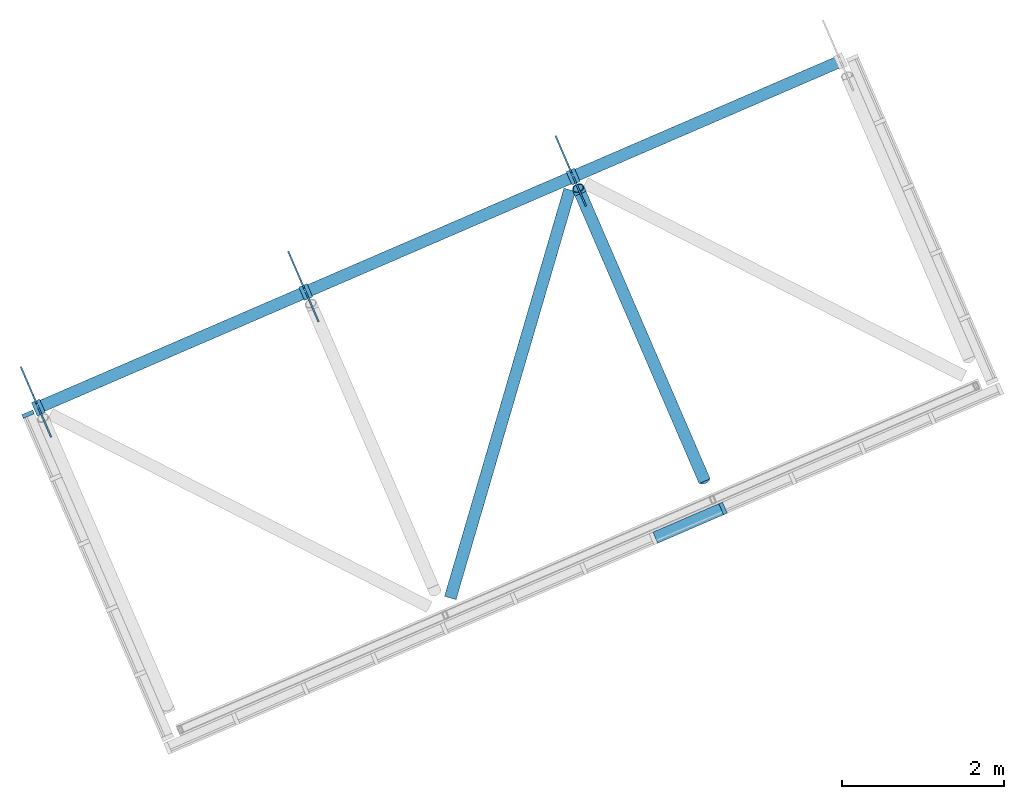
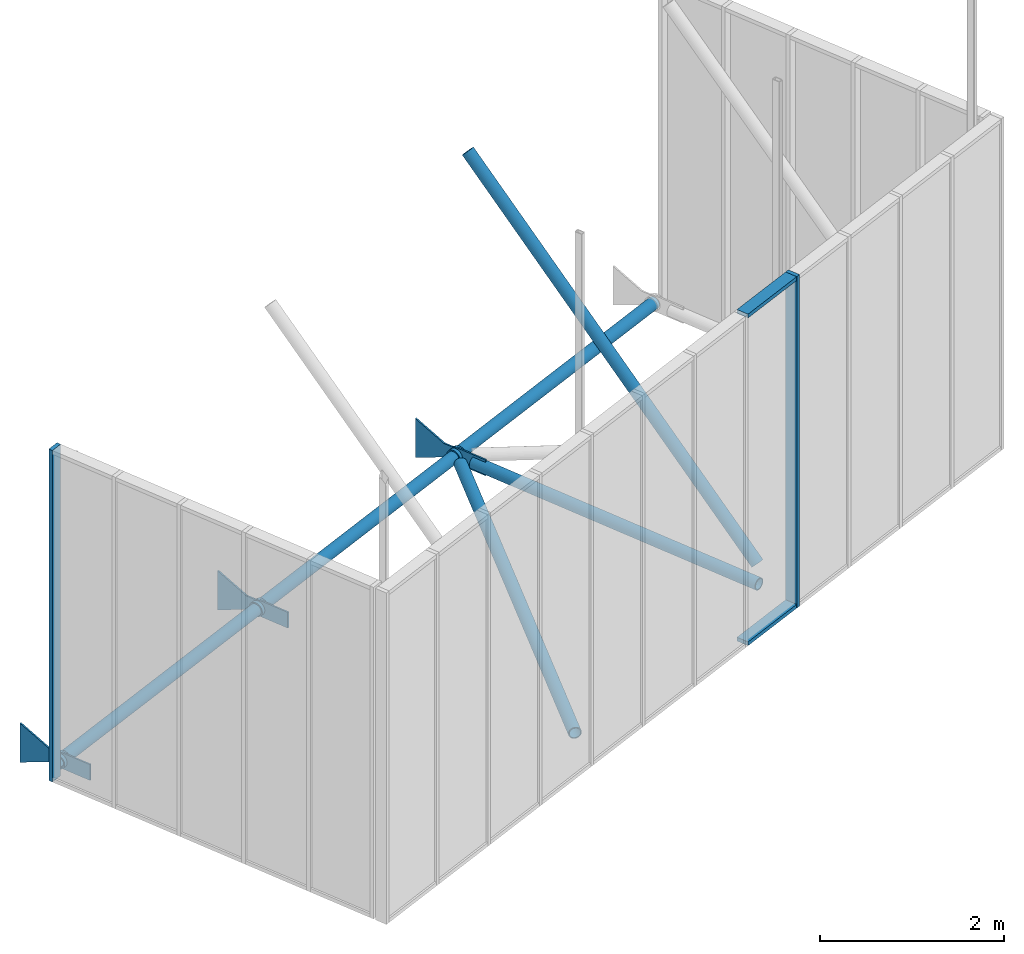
# One storey, part 2 of 5: 8 members, 3 beams, 2 elements without a shape of their own.
"""IFC4 building model written with IfcOpenShell, lengths in metres."""

import ifcopenshell
import ifcopenshell.guid

model = None  # the IFC model being written
_history = None  # IfcOwnerHistory: only IFC2X3 demands one
_inside = {}  # id of a spatial element -> (the spatial element, [elements in it])
_under = {}  # id of a project, library or spatial element -> (it, [spatial elements below it])
_declared = {}  # id of a project -> (the project, [libraries it declares])
_typed = {}  # id of a type object -> (the type object, [elements of that type])
_made_of = {}  # id of a material, layer set ... -> (it, [elements and type objects made of it])


def new_model(schema):
    """Start an empty IFC model of exactly this schema.

    Asked for "IFC4X3", IfcOpenShell would pick the latest addendum, in which some entities
    have other attributes; the version numbers below select the first issue.
    IFC2X3 requires an IfcOwnerHistory on every rooted entity: one is made here for all.
    """
    global model, _history
    if schema == "IFC4X3":
        model = ifcopenshell.file(schema_version=(4, 3, 0, 0))
    else:
        model = ifcopenshell.file(schema=schema)
    _inside.clear()
    _under.clear()
    _declared.clear()
    _typed.clear()
    _made_of.clear()
    _history = None
    if model.schema == "IFC2X3":
        org = make("IfcOrganization", Name="unknown")
        user = make(
            "IfcPersonAndOrganization",
            ThePerson=make("IfcPerson", FamilyName="unknown"),
            TheOrganization=org,
        )
        app = make(
            "IfcApplication",
            ApplicationDeveloper=org,
            Version="unknown",
            ApplicationFullName="unknown",
            ApplicationIdentifier="unknown",
        )
        _history = make(
            "IfcOwnerHistory",
            OwningUser=user,
            OwningApplication=app,
            ChangeAction="ADDED",
            CreationDate=0,
        )
    return model


def make(cls, **values):
    """One entity of the class cls with the attributes given. An attribute that is None is left unset."""
    return model.create_entity(
        cls, **{name: value for name, value in values.items() if value is not None}
    )


def entity(cls, *values):
    """Any entity or typed value of the class cls, its attributes in the order of the schema. None: left unset."""
    e = model.create_entity(cls)
    for i, value in enumerate(values):
        if value is not None:
            e[i] = value
    return e


def rooted(cls, **values):
    """An entity with a GlobalId (a new one), such as an element, a storey or a relation."""
    return make(cls, GlobalId=ifcopenshell.guid.new(), OwnerHistory=_history, **values)


def si_unit(unit_type, name, prefix=None):
    """IfcSIUnit, for example si_unit("LENGTHUNIT", "METRE", prefix="MILLI")."""
    return make("IfcSIUnit", UnitType=unit_type, Prefix=prefix, Name=name)


def converted_unit(unit_type, name, factor, base, dimensions=None, offset=None):
    """IfcConversionBasedUnit, such as the inch: factor (a typed value) times the base unit."""
    return make(
        "IfcConversionBasedUnit"
        if offset is None
        else "IfcConversionBasedUnitWithOffset",
        ConversionOffset=offset,
        Dimensions=None
        if dimensions is None
        else entity("IfcDimensionalExponents", *dimensions),
        UnitType=unit_type,
        Name=name,
        ConversionFactor=make(
            "IfcMeasureWithUnit", ValueComponent=factor, UnitComponent=base
        ),
    )


def derived_unit(unit_type, elements):
    """IfcDerivedUnit: a product of units, each with its exponent."""
    return make(
        "IfcDerivedUnit",
        Elements=[
            make("IfcDerivedUnitElement", Unit=unit, Exponent=power)
            for unit, power in elements
        ],
        UnitType=unit_type,
    )


def assignment(units):
    """IfcUnitAssignment: the units of a project."""
    return None if units is None else make("IfcUnitAssignment", Units=units)


def point(xyz):
    """IfcCartesianPoint."""
    return None if xyz is None else make("IfcCartesianPoint", Coordinates=xyz)


def direction(xyz):
    """IfcDirection."""
    return None if xyz is None else make("IfcDirection", DirectionRatios=xyz)


def frame(location, z_axis=None, x_axis=None):
    """IfcAxis2Placement3D, a coordinate frame: its origin and axes. An axis left out is left unset."""
    return make(
        "IfcAxis2Placement3D",
        Location=point(location),
        Axis=direction(z_axis),
        RefDirection=direction(x_axis),
    )


def origin():
    """The frame at (0, 0, 0) with its axes left unset."""
    return frame((0.0, 0.0, 0.0))


def place(relative_to, where):
    """IfcLocalPlacement: puts the frame where relative to a parent placement (None: the world)."""
    return make(
        "IfcLocalPlacement", PlacementRelTo=relative_to, RelativePlacement=where
    )


def context(
    kind, dimensions, precision=None, world=None, true_north=None, identifier=None
):
    """IfcGeometricRepresentationContext, for example the 3D "Model" context."""
    return make(
        "IfcGeometricRepresentationContext",
        ContextIdentifier=identifier,
        ContextType=kind,
        CoordinateSpaceDimension=dimensions,
        Precision=precision,
        WorldCoordinateSystem=world,
        TrueNorth=true_north,
    )


def subcontext(parent, identifier, kind, view, scale=None):
    """IfcGeometricRepresentationSubContext, for example "Body" below "Model"."""
    return make(
        "IfcGeometricRepresentationSubContext",
        ContextIdentifier=identifier,
        ContextType=kind,
        ParentContext=parent,
        TargetScale=scale,
        TargetView=view,
    )


def project(units=None, contexts=None):
    """IfcProject with its units and contexts."""
    return rooted(
        "IfcProject",
        Name="project",
        RepresentationContexts=contexts,
        UnitsInContext=assignment(units),
    )


def spatial(cls, under=None, at=None, **own):
    """A site, building, storey or space (cls), placed at a placement, below another one or the project."""
    s = rooted(cls, ObjectPlacement=at, **own)
    if under is not None:
        _under.setdefault(under.id(), (under, []))[1].append(s)
    return s


def point_list(points):
    """IfcCartesianPointList2D or 3D."""
    cls = (
        "IfcCartesianPointList2D" if len(points[0]) == 2 else "IfcCartesianPointList3D"
    )
    return make(cls, CoordList=points)


def arc(*indices):
    """IfcArcIndex: an arc through three numbered points of an indexed curve."""
    return model.create_entity("IfcArcIndex", indices)


def indexed_curve(points, segments=None, self_intersect=None):
    """IfcIndexedPolyCurve: lines and arcs through numbered points (the first is 1)."""
    return make(
        "IfcIndexedPolyCurve",
        Points=point_list(points),
        Segments=segments,
        SelfIntersect=self_intersect,
    )


def outline(outer, holes=None, kind="AREA"):
    """IfcArbitraryClosedProfileDef: a profile drawn as a closed curve; with holes, ...WithVoids."""
    if holes is None:
        return make("IfcArbitraryClosedProfileDef", ProfileType=kind, OuterCurve=outer)
    return make(
        "IfcArbitraryProfileDefWithVoids",
        ProfileType=kind,
        OuterCurve=outer,
        InnerCurves=holes,
    )


def extrude(swept, where, along, depth):
    """IfcExtrudedAreaSolid: the profile swept, set in the frame where, extruded along a direction by depth."""
    return make(
        "IfcExtrudedAreaSolid",
        SweptArea=swept,
        Position=where,
        ExtrudedDirection=direction(along),
        Depth=depth,
    )


def polygons(points, faces, closed=None, point_numbers=None):
    """IfcPolygonalFaceSet: a face is its outer loop, then its inner loops; points numbered from 1."""
    made = []
    for loops in faces:
        if len(loops) == 1:
            made.append(make("IfcIndexedPolygonalFace", CoordIndex=loops[0]))
        else:
            made.append(
                make(
                    "IfcIndexedPolygonalFaceWithVoids",
                    CoordIndex=loops[0],
                    InnerCoordIndices=loops[1:],
                )
            )
    return make(
        "IfcPolygonalFaceSet",
        Coordinates=point_list(points),
        Closed=closed,
        Faces=made,
        PnIndex=point_numbers,
    )


def shape(context_of_items, identifier, shape_type, items):
    """IfcShapeRepresentation: the items that make up one representation, for example the "Body"."""
    return make(
        "IfcShapeRepresentation",
        ContextOfItems=context_of_items,
        RepresentationIdentifier=identifier,
        RepresentationType=shape_type,
        Items=items,
    )


def source(mapping_origin, context_of_items, identifier, shape_type, items):
    """IfcRepresentationMap: a shape defined once, which mapped items show again and again."""
    return make(
        "IfcRepresentationMap",
        MappingOrigin=mapping_origin,
        MappedRepresentation=shape(context_of_items, identifier, shape_type, items),
    )


def transform(
    local_origin,
    x_axis=None,
    y_axis=None,
    z_axis=None,
    scale=None,
    scale2=None,
    scale3=None,
    uniform=True,
):
    """IfcCartesianTransformationOperator3D, or its non-uniform kind. x_axis, y_axis, z_axis: its Axis1, 2, 3."""
    if uniform:
        return make(
            "IfcCartesianTransformationOperator3D",
            Axis1=direction(x_axis),
            Axis2=direction(y_axis),
            LocalOrigin=point(local_origin),
            Scale=scale,
            Axis3=direction(z_axis),
        )
    return make(
        "IfcCartesianTransformationOperator3DnonUniform",
        Axis1=direction(x_axis),
        Axis2=direction(y_axis),
        LocalOrigin=point(local_origin),
        Scale=scale,
        Axis3=direction(z_axis),
        Scale2=scale2,
        Scale3=scale3,
    )


def mapped(mapping_source, mapping_target):
    """IfcMappedItem: shows the shape of a source again, moved by a transform."""
    return make(
        "IfcMappedItem", MappingSource=mapping_source, MappingTarget=mapping_target
    )


def material(Name=None, Category=None):
    """IfcMaterial."""
    return make("IfcMaterial", Name=Name, Category=Category)


def made_of(thing, what):
    """Note that an element or type object is made of a material, layer set ...; save() writes the relation."""
    if what is not None:
        _made_of.setdefault(what.id(), (what, []))[1].append(thing)
    return thing


def type_object(cls, material=None, **own):
    """A type object (cls), such as IfcWallType, which elements share."""
    return made_of(rooted(cls, **own), material)


def type_shapes(of_type, sources):
    """Give a type object the sources (RepresentationMaps) that its elements show as mapped items."""
    of_type.RepresentationMaps = sources


def element(
    cls,
    number,
    at=None,
    inside=None,
    cuts=None,
    type_object=None,
    material=None,
    context=None,
    identifier="Body",
    shape_type=None,
    held_by="IfcProductDefinitionShape",
    body=None,
    shapes=None,
    **own,
):
    """One element of the class cls, such as IfcWall. Its Tag is "e" and its number.

    at: its placement. inside: the storey or other place that contains it. cuts: it is an
    opening in that element (IfcRelVoidsElement). A single representation is given by context,
    identifier, shape_type and body (its items); several are given by shapes. held_by: the class
    of the entity that holds the representations. save() writes the other relations.
    """
    e = rooted(cls, Tag="e%d" % number, ObjectPlacement=at, **own)
    if body is not None:
        shapes = [shape(context, identifier, shape_type, body)]
    if shapes is not None:
        e.Representation = make(held_by, Representations=shapes)
    if inside is not None:
        _inside.setdefault(inside.id(), (inside, []))[1].append(e)
    if cuts is not None:
        rooted(
            "IfcRelVoidsElement", RelatingBuildingElement=cuts, RelatedOpeningElement=e
        )
    if type_object is not None:
        _typed.setdefault(type_object.id(), (type_object, []))[1].append(e)
    return made_of(e, material)


def aggregate(whole, parts):
    """IfcRelAggregates: a whole, such as a stair, and the parts it consists of."""
    return rooted("IfcRelAggregates", RelatingObject=whole, RelatedObjects=parts)


def save(model, path):
    """Write the relations noted so far, then the file.

    IfcRelAggregates (storeys below a building ...), IfcRelContainedInSpatialStructure (elements
    in a storey), IfcRelDefinesByType, IfcRelAssociatesMaterial and IfcRelDeclares: one each for
    every whole, place, type object, material and project.
    """
    for whole, parts in _under.values():
        aggregate(whole, parts)
    for where, things in _inside.values():
        rooted(
            "IfcRelContainedInSpatialStructure",
            RelatedElements=things,
            RelatingStructure=where,
        )
    for kind, things in _typed.values():
        rooted("IfcRelDefinesByType", RelatedObjects=things, RelatingType=kind)
    for what, things in _made_of.values():
        rooted("IfcRelAssociatesMaterial", RelatedObjects=things, RelatingMaterial=what)
    for by, libraries in _declared.values():
        rooted("IfcRelDeclares", RelatingContext=by, RelatedDefinitions=libraries)
    model.write(path)


model = new_model("IFC4")

# Units and contexts
model_context = context("Model", 3, precision=1e-05, world=origin(), true_north=direction((6.12323399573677e-17, 1.0)))
body_context = subcontext(model_context, "Body", "Model", "MODEL_VIEW")
ifc_project = project(units=[si_unit("LENGTHUNIT", "METRE"), si_unit("AREAUNIT", "SQUARE_METRE"), si_unit("VOLUMEUNIT", "CUBIC_METRE"), converted_unit("PLANEANGLEUNIT", "DEGREE", entity("IfcPlaneAngleMeasure", 0.0174532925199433), si_unit("PLANEANGLEUNIT", "RADIAN"), dimensions=[0, 0, 0, 0, 0, 0, 0]), si_unit("MASSUNIT", "GRAM", prefix="KILO"), derived_unit("MOMENTOFINERTIAUNIT", [(si_unit("LENGTHUNIT", "METRE"), 4)]), derived_unit("LINEARFORCEUNIT", [(si_unit("MASSUNIT", "GRAM", prefix="KILO"), 1), (si_unit("TIMEUNIT", "SECOND"), -2)]), derived_unit("THERMALTRANSMITTANCEUNIT", [(si_unit("MASSUNIT", "GRAM", prefix="KILO"), 1), (si_unit("THERMODYNAMICTEMPERATUREUNIT", "KELVIN"), -1), (si_unit("TIMEUNIT", "SECOND"), -3)]), derived_unit("USERDEFINED", [(si_unit("MASSUNIT", "GRAM", prefix="KILO"), 1), (si_unit("TIMEUNIT", "SECOND"), -2), (si_unit("THERMODYNAMICTEMPERATUREUNIT", "KELVIN"), -1)]), derived_unit("THERMALRESISTANCEUNIT", [(si_unit("MASSUNIT", "GRAM", prefix="KILO"), -1), (si_unit("TIMEUNIT", "SECOND"), 3), (si_unit("THERMODYNAMICTEMPERATUREUNIT", "KELVIN"), 1)])], contexts=[model_context])

# Site, building, storey
site_placement = place(None, origin())
site = spatial("IfcSite", under=ifc_project, at=site_placement, Name="Default", CompositionType="ELEMENT")
building_placement = place(site_placement, frame((4.92348780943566, -84.5603392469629, 320.975), z_axis=(0.0, 0.0, 1.0), x_axis=(-0.396377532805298, 0.918087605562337, 0.0)))
building = spatial("IfcBuilding", under=site, at=building_placement, CompositionType="ELEMENT")
storey_placement = place(building_placement, origin())
storey = spatial("IfcBuildingStorey", under=building, at=storey_placement, Name="Level 1", CompositionType="ELEMENT", Elevation=0.0)

# Beams
ifc_material_1 = material(Name="Acero, 45-345", Category="Metal")
beam_type_1 = type_object("IfcBeamType", Name="M_HSS-Tubo estructural redondo:HSS190.5X12.7", PredefinedType="BEAM", material=ifc_material_1)
shared_shape_1 = source(origin(), body_context, "Body", "SweptSolid", [
    extrude(outline(indexed_curve([(-0.0750000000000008, 1.20590175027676e-16), (-3.45786696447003e-16, -0.0750000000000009), (0.0750000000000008, -1.20590175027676e-16), (1.22223330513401e-16, 0.0750000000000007)], segments=[arc(1, 2, 3), arc(3, 4, 1)], self_intersect=False), holes=[indexed_curve([(0.0632, 1.07782022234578e-15), (1.13989196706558e-15, -0.0632000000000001), (-0.0632, -2.96728571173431e-16), (-4.59615173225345e-16, 0.0631999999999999)], segments=[arc(1, 2, 3), arc(3, 4, 1)], self_intersect=False)]), frame((-2.59965593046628, 0.0, 0.0), z_axis=(1.0, 0.0, 0.0), x_axis=(0.0, 1.0, 0.0)), (0.0, 0.0, 1.0), 5.25744912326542),
])
type_shapes(beam_type_1, [shared_shape_1])
beam_1_placement = place(storey_placement, frame((0.0944067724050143, 0.311177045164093, 0.0), z_axis=(0.0, 0.0, 1.0), x_axis=(0.76985301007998, -0.638221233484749, 0.0)))
element("IfcBeam", 1, at=beam_1_placement, inside=storey, type_object=beam_type_1, Name="M_HSS-Tubo estructural redondo:HSS190.5X12.7", ObjectType="M_HSS-Tubo estructural redondo:HSS190.5X12.7", PredefinedType="BEAM", context=body_context, shape_type="MappedRepresentation", body=[
    mapped(shared_shape_1, transform((0.0, 0.0, 0.0), scale=1.0)),
])
beam_type_2 = type_object("IfcBeamType", Name="M_HSS-Tubo estructural redondo:HSS190.5X12.7", PredefinedType="BEAM", material=ifc_material_1)
shared_shape_2 = source(origin(), body_context, "Body", "SweptSolid", [
    extrude(outline(indexed_curve([(-0.0750000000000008, 1.20590175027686e-16), (-2.70716782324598e-16, -0.0750000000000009), (0.0750000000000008, -1.20590175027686e-16), (0.0, 0.0750000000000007)], segments=[arc(1, 2, 3), arc(3, 4, 1)], self_intersect=False), holes=[indexed_curve([(0.0631999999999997, -4.02405891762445e-16), (-2.70716782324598e-16, -0.0632000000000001), (-0.0632000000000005, 4.99319430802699e-16), (2.70716782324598e-16, 0.0631999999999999)], segments=[arc(1, 2, 3), arc(3, 4, 1)], self_intersect=False)]), frame((-1.82700463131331, -1.48882295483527, 0.0), z_axis=(1.0, 0.0, 0.0), x_axis=(0.0, -1.0, 0.0)), (0.0, 0.0, 1.0), 3.8701652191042),
])
type_shapes(beam_type_2, [shared_shape_2])
beam_2_placement = place(storey_placement, origin())
element("IfcBeam", 2, at=beam_2_placement, inside=storey, type_object=beam_type_2, Name="M_HSS-Tubo estructural redondo:HSS190.5X12.7", ObjectType="M_HSS-Tubo estructural redondo:HSS190.5X12.7", PredefinedType="BEAM", context=body_context, shape_type="MappedRepresentation", body=[
    mapped(shared_shape_2, transform((0.0, 0.0, 0.0), scale=1.0)),
])
beam_type_3 = type_object("IfcBeamType", Name="M_HSS-Tubo estructural redondo:HSS190.5X12.7", PredefinedType="BEAM", material=ifc_material_1)
shared_shape_3 = source(origin(), body_context, "Body", "SweptSolid", [
    extrude(outline(indexed_curve([(1.26334226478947e-16, -0.0750000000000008), (0.0750000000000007, 5.79689973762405e-22), (-1.26334226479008e-16, 0.0750000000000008), (-0.0750000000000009, -2.70717362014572e-16)], segments=[arc(1, 2, 3), arc(3, 4, 1)], self_intersect=False), holes=[indexed_curve([(-1.94234468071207e-16, 0.0632), (0.0631999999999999, 2.70717270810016e-16), (-2.46225904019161e-16, -0.0632000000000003), (-0.0632000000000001, -4.88485417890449e-22)], segments=[arc(1, 2, 3), arc(3, 4, 1)], self_intersect=False)]), frame((2.27316058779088, -5.08882295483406, 0.0), z_axis=(0.0, 1.0, 0.0), x_axis=(0.0, 0.0, 1.0)), (0.0, 0.0, 1.0), 10.8414688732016),
])
type_shapes(beam_type_3, [shared_shape_3])
beam_3_placement = place(storey_placement, origin())
element("IfcBeam", 3, at=beam_3_placement, inside=storey, type_object=beam_type_3, Name="M_HSS-Tubo estructural redondo:HSS190.5X12.7", ObjectType="M_HSS-Tubo estructural redondo:HSS190.5X12.7", PredefinedType="BEAM", context=body_context, shape_type="MappedRepresentation", body=[
    mapped(shared_shape_3, transform((0.0, 0.0, 0.0), scale=1.0)),
])

# Members
ifc_material_2 = material(Name="<Unnamed>")
member_type_1 = type_object("IfcMemberType", Name="Union Metalica 2:Union Metalica 2", PredefinedType="PLATE", material=ifc_material_2)
shared_shape_4 = source(origin(), body_context, "Body", "Tessellation", [
    polygons([(-0.0550000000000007, 0.09, -3.06066939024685e-24), (-0.0550000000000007, 0.0869333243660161, 0.0232937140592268), (-0.0550000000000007, 0.0779422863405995, 0.045), (-0.0550000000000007, 0.0636396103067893, 0.0636396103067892), (-0.0550000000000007, 0.0450000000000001, 0.0779422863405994), (-0.0550000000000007, 0.023293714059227, 0.0869333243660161), (-0.0550000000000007, 1.2541499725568e-16, 0.09), (-0.0550000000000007, -0.0232937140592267, 0.0869333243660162), (-0.0550000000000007, -0.0449999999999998, 0.0779422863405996), (-0.0550000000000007, -0.0636396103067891, 0.0636396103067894), (-0.0550000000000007, -0.0779422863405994, 0.0450000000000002), (-0.0550000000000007, -0.0869333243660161, 0.0232937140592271), (-0.0550000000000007, -0.09, 2.5082999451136e-16), (-0.010000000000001, -0.09, 2.5082999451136e-16), (-0.010000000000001, -0.0873808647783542, 0.0215542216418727), (-0.010000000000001, -0.0796777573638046, 0.041850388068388), (-0.010000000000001, -0.0673410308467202, 0.0597091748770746), (-0.010000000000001, -0.0510895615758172, 0.0740935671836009), (-0.010000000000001, -0.0318689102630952, 0.0841687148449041), (-0.010000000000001, -0.0107964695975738, 0.0893500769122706), (-0.010000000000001, 0.0108991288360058, 0.0893376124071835), (-0.010000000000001, 0.0319573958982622, 0.0841351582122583), (-0.010000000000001, 0.0511587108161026, 0.0740458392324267), (-0.010000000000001, 0.0673877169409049, 0.0596564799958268), (-0.010000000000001, 0.0797022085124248, 0.0418038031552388), (-0.010000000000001, 0.0873879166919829, 0.0215256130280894), (-0.010000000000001, 0.09, -1.53033469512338e-24), (-0.0550000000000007, 0.075, 1.16416504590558e-24), (-0.0550000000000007, 0.0724444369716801, -0.019411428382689), (-0.0550000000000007, 0.0649519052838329, -0.0375), (-0.0550000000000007, 0.0530330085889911, -0.053033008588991), (-0.0550000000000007, 0.0375000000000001, -0.0649519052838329), (-0.0550000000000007, 0.0194114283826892, -0.0724444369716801), (-0.0550000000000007, 1.04512497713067e-16, -0.075), (-0.0550000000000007, -0.019411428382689, -0.0724444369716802), (-0.0550000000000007, -0.0374999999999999, -0.064951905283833), (-0.0550000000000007, -0.0530330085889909, -0.0530330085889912), (-0.0550000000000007, -0.0649519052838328, -0.0375000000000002), (-0.0550000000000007, -0.0724444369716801, -0.0194114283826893), (-0.0550000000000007, -0.075, -2.09024995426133e-16), (-0.010000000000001, -0.075, -7.08625356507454e-16), (-0.010000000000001, -0.0724444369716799, -0.0194114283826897), (-0.010000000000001, -0.0649519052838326, -0.0375000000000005), (-0.010000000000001, -0.0530330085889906, -0.0530330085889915), (-0.010000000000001, -0.0374999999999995, -0.0649519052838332), (-0.010000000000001, -0.0194114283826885, -0.0724444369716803), (-0.010000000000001, 6.20766204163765e-16, -0.075), (-0.010000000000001, 0.0194114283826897, -0.07244443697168), (-0.010000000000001, 0.0375000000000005, -0.0649519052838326), (-0.010000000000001, 0.0530330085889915, -0.0530330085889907), (-0.010000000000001, 0.0649519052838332, -0.0374999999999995), (-0.010000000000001, 0.0724444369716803, -0.0194114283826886), (-0.010000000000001, 0.075, 1.16416504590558e-24), (-0.010000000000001, 9.64730297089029e-16, 0.105), (0.00999999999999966, 9.64730297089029e-16, 0.105), (0.00999999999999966, 0.0188818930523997, 0.103288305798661), (0.00999999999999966, 0.0370576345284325, 0.0982432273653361), (0.00999999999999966, 0.0540832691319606, 0.0899999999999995), (-0.010000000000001, 0.0540832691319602, 0.0899999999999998), (-0.010000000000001, 0.0370576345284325, 0.0982432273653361), (-0.010000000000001, 0.0188818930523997, 0.103288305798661), (-0.0550000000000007, -0.0869333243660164, -0.023293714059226), (-0.0550000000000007, -0.0779422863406, -0.0449999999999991), (-0.0550000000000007, -0.0636396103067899, -0.0636396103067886), (-0.0550000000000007, -0.0450000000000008, -0.077942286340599), (-0.0550000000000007, -0.0232937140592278, -0.0869333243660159), (-0.0550000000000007, -9.75765425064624e-16, -0.09), (-0.0550000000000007, 0.0232937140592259, -0.0869333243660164), (-0.0550000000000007, 0.0449999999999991, -0.0779422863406), (-0.0550000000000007, 0.0636396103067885, -0.06363961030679), (-0.0550000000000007, 0.0779422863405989, -0.045000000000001), (-0.0550000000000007, 0.0869333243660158, -0.0232937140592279), (-0.010000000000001, 0.0873879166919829, -0.0215256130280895), (-0.010000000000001, 0.0797022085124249, -0.0418038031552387), (-0.010000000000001, 0.0673877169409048, -0.0596564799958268), (-0.010000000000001, 0.0511587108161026, -0.0740458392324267), (-0.010000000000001, 0.0319573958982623, -0.0841351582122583), (-0.010000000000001, 0.0108991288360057, -0.0893376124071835), (-0.010000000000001, -0.010796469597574, -0.0893500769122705), (-0.010000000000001, -0.0318689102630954, -0.0841687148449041), (-0.010000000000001, -0.0510895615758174, -0.0740935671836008), (-0.010000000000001, -0.0673410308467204, -0.0597091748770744), (-0.010000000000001, -0.0796777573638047, -0.0418503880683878), (-0.010000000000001, -0.0873808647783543, -0.0215542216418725), (-0.0550000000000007, -0.0724444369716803, 0.0194114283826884), (-0.0550000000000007, -0.0649519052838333, 0.0374999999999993), (-0.0550000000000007, -0.0530330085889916, 0.0530330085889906), (-0.0550000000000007, -0.0375000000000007, 0.0649519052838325), (-0.0550000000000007, -0.0194114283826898, 0.0724444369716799), (-0.0550000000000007, -8.1313785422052e-16, 0.075), (-0.0550000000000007, 0.0194114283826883, 0.0724444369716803), (-0.0550000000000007, 0.0374999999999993, 0.0649519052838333), (-0.0550000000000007, 0.0530330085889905, 0.0530330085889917), (-0.0550000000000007, 0.0649519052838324, 0.0375000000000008), (-0.0550000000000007, 0.0724444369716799, 0.01941142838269), (-0.010000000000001, 0.0724444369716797, 0.0194114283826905), (-0.010000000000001, 0.0649519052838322, 0.0375000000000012), (-0.010000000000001, 0.0530330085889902, 0.053033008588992), (-0.010000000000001, 0.0374999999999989, 0.0649519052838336), (-0.010000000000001, 0.0194114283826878, 0.0724444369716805), (-0.010000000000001, -1.27943152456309e-15, 0.075), (-0.010000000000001, -0.0194114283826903, 0.0724444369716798), (-0.010000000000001, -0.0375000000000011, 0.0649519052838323), (-0.010000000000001, -0.0530330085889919, 0.0530330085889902), (-0.010000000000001, -0.0649519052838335, 0.0374999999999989), (-0.010000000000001, -0.0724444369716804, 0.0194114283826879), (0.00999999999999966, -0.4, 0.105000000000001), (0.00999999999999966, -0.400000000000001, -0.104999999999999), (0.00999999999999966, -3.38395977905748e-16, -0.105), (0.00999999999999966, 0.0188812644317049, -0.10328842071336), (0.00999999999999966, 0.0370597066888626, -0.0982424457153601), (0.00999999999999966, 0.0540832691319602, -0.0899999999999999), (0.00999999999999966, 0.16, -0.0899999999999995), (0.00999999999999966, 0.55, -0.26), (0.00999999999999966, 0.55, 0.26), (0.00999999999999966, 0.16, 0.0899999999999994), (0.00999999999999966, 0.09, -5.75273162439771e-16), (0.00999999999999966, 0.0873879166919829, -0.0215256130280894), (0.00999999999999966, 0.0797022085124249, -0.0418038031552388), (0.00999999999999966, 0.0673877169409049, -0.0596564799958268), (0.00999999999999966, 0.0511587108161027, -0.0740458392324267), (0.00999999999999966, 0.0319573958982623, -0.0841351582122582), (0.00999999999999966, 0.0108991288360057, -0.0893376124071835), (0.00999999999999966, -0.010796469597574, -0.0893500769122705), (0.00999999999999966, -0.0318689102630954, -0.0841687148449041), (0.00999999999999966, -0.0510895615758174, -0.0740935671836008), (0.00999999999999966, -0.0673410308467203, -0.0597091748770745), (0.00999999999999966, -0.0796777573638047, -0.0418503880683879), (0.00999999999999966, -0.0873808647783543, -0.0215542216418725), (0.00999999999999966, -0.09, -3.38395977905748e-16), (0.00999999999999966, -0.0873879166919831, 0.0215256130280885), (0.00999999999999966, -0.0797022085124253, 0.041803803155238), (0.00999999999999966, -0.0673877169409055, 0.0596564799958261), (0.00999999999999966, -0.0511587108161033, 0.0740458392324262), (0.00999999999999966, -0.0319573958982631, 0.0841351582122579), (0.00999999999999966, -0.0108991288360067, 0.0893376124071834), (0.00999999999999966, 0.0107964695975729, 0.0893500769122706), (0.00999999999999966, 0.0318689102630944, 0.0841687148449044), (0.00999999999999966, 0.0510895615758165, 0.0740935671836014), (0.00999999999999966, 0.0673410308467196, 0.0597091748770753), (0.00999999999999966, 0.0796777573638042, 0.0418503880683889), (0.00999999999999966, 0.087380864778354, 0.0215542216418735), (-0.010000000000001, -0.4, 0.105000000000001), (-0.010000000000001, 0.16, 0.0899999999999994), (-0.010000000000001, 0.55, 0.26), (-0.010000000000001, 0.55, -0.26), (-0.010000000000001, 0.16, -0.0899999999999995), (-0.010000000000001, 0.0540832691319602, -0.0899999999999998), (-0.010000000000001, 0.0370597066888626, -0.0982424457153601), (-0.010000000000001, 0.0188812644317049, -0.10328842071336), (-0.010000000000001, -3.38395977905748e-16, -0.105), (-0.010000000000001, -0.400000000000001, -0.104999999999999), (0.00999999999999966, -0.075, -2.10923499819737e-16), (0.00999999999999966, 0.075, 8.82445156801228e-16), (0.00999999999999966, 0.0724444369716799, 0.01941142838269), (0.00999999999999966, 0.0649519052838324, 0.0375000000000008), (0.00999999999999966, 0.0530330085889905, 0.0530330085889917), (0.00999999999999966, 0.0374999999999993, 0.0649519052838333), (0.00999999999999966, 0.0194114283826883, 0.0724444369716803), (0.00999999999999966, -8.14361081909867e-16, 0.075), (0.00999999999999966, -0.0194114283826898, 0.0724444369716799), (0.00999999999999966, -0.0375000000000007, 0.0649519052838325), (0.00999999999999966, -0.0530330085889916, 0.0530330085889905), (0.00999999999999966, -0.0649519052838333, 0.0374999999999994), (0.00999999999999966, -0.0724444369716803, 0.0194114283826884), (0.00999999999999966, -0.07244443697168, -0.0194114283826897), (0.00999999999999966, -0.0649519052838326, -0.0375000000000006), (0.00999999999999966, -0.0530330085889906, -0.0530330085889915), (0.00999999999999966, -0.0374999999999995, -0.0649519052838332), (0.00999999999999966, -0.0194114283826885, -0.0724444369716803), (0.00999999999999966, 6.21259333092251e-16, -0.075), (0.00999999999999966, 0.0194114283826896, -0.07244443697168), (0.00999999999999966, 0.0375000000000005, -0.0649519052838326), (0.00999999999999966, 0.0530330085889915, -0.0530330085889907), (0.00999999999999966, 0.0649519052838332, -0.0374999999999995), (0.00999999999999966, 0.0724444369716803, -0.0194114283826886), (0.0549999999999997, -0.09, 2.90798023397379e-16), (0.0549999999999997, -0.0869333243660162, -0.0232937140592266), (0.0549999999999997, -0.0779422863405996, -0.0449999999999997), (0.0549999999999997, -0.0636396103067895, -0.063639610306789), (0.0549999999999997, -0.0450000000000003, -0.0779422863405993), (0.0549999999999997, -0.0232937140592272, -0.086933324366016), (0.0549999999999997, -4.22994972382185e-16, -0.09), (0.0549999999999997, 0.0232937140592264, -0.0869333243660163), (0.0549999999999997, 0.0449999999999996, -0.0779422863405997), (0.0549999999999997, 0.0636396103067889, -0.0636396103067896), (0.0549999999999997, 0.0779422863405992, -0.0450000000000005), (0.0549999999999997, 0.086933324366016, -0.0232937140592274), (0.0549999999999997, 0.09, -4.92430958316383e-28), (0.0549999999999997, 0.0869333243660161, 0.0232937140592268), (0.0549999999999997, 0.0779422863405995, 0.045), (0.0549999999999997, 0.0636396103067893, 0.0636396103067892), (0.0549999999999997, 0.0450000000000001, 0.0779422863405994), (0.0549999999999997, 0.023293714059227, 0.0869333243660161), (0.0549999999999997, 1.18438592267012e-16, 0.09), (0.0549999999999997, -0.0232937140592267, 0.0869333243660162), (0.0549999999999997, -0.0449999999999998, 0.0779422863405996), (0.0549999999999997, -0.0636396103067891, 0.0636396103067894), (0.0549999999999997, -0.0779422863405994, 0.0450000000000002), (0.0549999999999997, -0.0869333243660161, 0.0232937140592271), (0.0549999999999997, -0.075, -2.42331686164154e-16), (0.0549999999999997, -0.0724444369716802, 0.0194114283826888), (0.0549999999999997, -0.064951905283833, 0.0374999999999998), (0.0549999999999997, -0.0530330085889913, 0.0530330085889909), (0.0549999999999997, -0.0375000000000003, 0.0649519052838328), (0.0549999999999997, -0.0194114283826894, 0.07244443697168), (0.0549999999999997, -3.38395977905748e-16, 0.075), (0.0549999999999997, 0.0194114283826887, 0.0724444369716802), (0.0549999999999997, 0.0374999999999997, 0.0649519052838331), (0.0549999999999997, 0.0530330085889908, 0.0530330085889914), (0.0549999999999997, 0.0649519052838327, 0.0375000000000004), (0.0549999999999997, 0.07244443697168, 0.0194114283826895), (0.0549999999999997, 0.075, -4.92430958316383e-28), (0.0549999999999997, 0.0724444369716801, -0.019411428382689), (0.0549999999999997, 0.0649519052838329, -0.0375), (0.0549999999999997, 0.0530330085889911, -0.053033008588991), (0.0549999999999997, 0.0375000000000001, -0.0649519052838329), (0.0549999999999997, 0.0194114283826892, -0.0724444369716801), (0.0549999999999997, 1.01518793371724e-16, -0.075), (0.0549999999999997, -0.0194114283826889, -0.0724444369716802), (0.0549999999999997, -0.0374999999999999, -0.064951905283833), (0.0549999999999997, -0.0530330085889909, -0.0530330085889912), (0.0549999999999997, -0.0649519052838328, -0.0375000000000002), (0.0549999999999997, -0.0724444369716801, -0.0194114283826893)], [[[2, 26, 1]], [[3, 25, 2]], [[23, 4, 5]], [[3, 4, 24]], [[22, 5, 6]], [[2, 25, 26]], [[26, 27, 1]], [[22, 23, 5]], [[24, 4, 23]], [[24, 25, 3]], [[21, 22, 6]], [[6, 7, 21]], [[20, 7, 8]], [[19, 8, 9]], [[11, 12, 16]], [[17, 10, 11]], [[9, 10, 18]], [[15, 12, 13]], [[19, 20, 8]], [[18, 19, 9]], [[18, 10, 17]], [[11, 16, 17]], [[15, 16, 12]], [[13, 14, 15]], [[7, 20, 21]], [[53, 28, 29, 52, 176, 214, 213, 154]], [[52, 29, 30, 51, 175, 215, 214, 176]], [[49, 173, 217, 216, 174, 50, 31, 32]], [[31, 50, 174, 216, 215, 175, 51, 30]], [[48, 172, 218, 217, 173, 49, 32, 33]], [[48, 33, 34, 47, 171, 219, 218, 172]], [[44, 168, 222, 221, 169, 45, 36, 37]], [[42, 166, 224, 223, 167, 43, 38, 39]], [[37, 38, 43, 167, 223, 222, 168, 44]], [[41, 153, 201, 224, 166, 42, 39, 40]], [[36, 45, 169, 221, 220, 170, 46, 35]], [[46, 170, 220, 219, 171, 47, 34, 35]], [[59, 60, 57, 58]], [[60, 61, 56, 57]], [[61, 54, 55, 56]], [[62, 84, 13]], [[63, 83, 62]], [[81, 64, 65]], [[63, 64, 82]], [[80, 65, 66]], [[62, 83, 84]], [[84, 14, 13]], [[130, 129, 177]], [[80, 81, 65]], [[82, 64, 81]], [[82, 83, 63]], [[79, 80, 66]], [[66, 67, 79]], [[68, 78, 67]], [[69, 77, 68]], [[75, 70, 71]], [[72, 1, 73]], [[69, 70, 76]], [[74, 71, 72]], [[69, 76, 77]], [[77, 78, 68]], [[27, 73, 1]], [[118, 117, 189]], [[76, 70, 75]], [[74, 75, 71]], [[73, 74, 72]], [[67, 78, 79]], [[41, 40, 85, 106, 165, 202, 201, 153]], [[106, 85, 86, 105, 164, 203, 202, 165]], [[103, 162, 205, 204, 163, 104, 87, 88]], [[87, 104, 163, 204, 203, 164, 105, 86]], [[102, 161, 206, 205, 162, 103, 88, 89]], [[102, 89, 90, 101, 160, 207, 206, 161]], [[100, 159, 208, 207, 160, 101, 90, 91]], [[99, 158, 209, 208, 159, 100, 91, 92]], [[96, 155, 212, 211, 156, 97, 94, 95]], [[53, 154, 213, 212, 155, 96, 95, 28]], [[92, 93, 98, 157, 210, 209, 158, 99]], [[93, 94, 97, 156, 211, 210, 157, 98]], [[55, 107, 108, 109, 110, 111, 112, 113, 114, 115, 116, 58, 57, 56], [136, 137, 138, 139, 140, 141, 142, 117, 118, 119, 120, 121, 122, 123, 124, 125, 126, 127, 128, 129, 130, 131, 132, 133, 134, 135]], [[185, 186, 187, 188, 189, 190, 191, 192, 193, 194, 195, 196, 197, 198, 199, 200, 177, 178, 179, 180, 181, 182, 183, 184], [217, 218, 219, 220, 221, 222, 223, 224, 201, 202, 203, 204, 205, 206, 207, 208, 209, 210, 211, 212, 213, 214, 215, 216]], [[151, 152, 143, 54, 61, 60, 59, 144, 145, 146, 147, 148, 149, 150], [79, 78, 77, 76, 75, 74, 73, 27, 26, 25, 24, 23, 22, 21, 20, 19, 18, 17, 16, 15, 14, 84, 83, 82, 81, 80]], [[5, 4, 3, 2, 1, 72, 71, 70, 69, 68, 67, 66, 65, 64, 63, 62, 13, 12, 11, 10, 9, 8, 7, 6], [92, 91, 90, 89, 88, 87, 86, 85, 40, 39, 38, 37, 36, 35, 34, 33, 32, 31, 30, 29, 28, 95, 94, 93]], [[108, 107, 143, 152]], [[109, 108, 152, 151]], [[113, 112, 148, 147]], [[151, 150, 110, 109]], [[150, 149, 111, 110]], [[149, 148, 112, 111]], [[107, 55, 54, 143]], [[58, 116, 144, 59]], [[128, 127, 179]], [[129, 128, 178]], [[125, 124, 182]], [[126, 125, 181]], [[127, 126, 180]], [[129, 178, 177]], [[179, 127, 180]], [[128, 179, 178]], [[181, 180, 126]], [[125, 182, 181]], [[124, 183, 182]], [[122, 121, 185]], [[123, 122, 184]], [[119, 118, 188]], [[187, 120, 119]], [[120, 186, 121]], [[122, 185, 184]], [[184, 183, 123]], [[189, 188, 118]], [[186, 185, 121]], [[187, 186, 120]], [[119, 188, 187]], [[123, 183, 124]], [[141, 140, 191]], [[142, 141, 190]], [[138, 137, 194]], [[139, 138, 193]], [[140, 139, 192]], [[117, 142, 189]], [[142, 190, 189]], [[191, 140, 192]], [[141, 191, 190]], [[193, 192, 139]], [[138, 194, 193]], [[137, 195, 194]], [[196, 136, 135]], [[134, 197, 135]], [[198, 134, 133]], [[131, 130, 177]], [[199, 133, 132]], [[200, 132, 131]], [[196, 195, 136]], [[197, 196, 135]], [[198, 133, 199]], [[199, 132, 200]], [[197, 134, 198]], [[177, 200, 131]], [[136, 195, 137]], [[116, 115, 145, 144]], [[114, 113, 147, 146]], [[115, 114, 146, 145]]], closed=True),
])
type_shapes(member_type_1, [shared_shape_4])
for number, where, z_axis, x_axis, name in (
    (4, (2.27316058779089, 5.71117704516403, 0.0), (0.0, 0.0, 1.0), (0.0, -1.0, 0.0), "Union Metalica 2:Union Metalica 2"),
    (5, (2.27316058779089, 2.11117704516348, 0.0), (0.0, 0.0, 1.0), (0.0, -1.0, 0.0), "Union Metalica 2:Union Metalica 2"),
    (6, (2.27316058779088, -1.48882295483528, 0.0), (0.0, 0.0, 1.0), (0.0, -1.0, 0.0), "Union Metalica 2:Union Metalica 2"),
):
    element("IfcMember", number, at=place(storey_placement, frame(where, z_axis=z_axis, x_axis=x_axis)), inside=storey, type_object=member_type_1, material=ifc_material_2, Name=name, ObjectType="Union Metalica 2:Union Metalica 2", PredefinedType="PLATE", context=body_context, shape_type="MappedRepresentation", body=[
        mapped(shared_shape_4, transform((0.0, 0.0, 0.0), scale=1.0)),
    ])
member_type_2 = type_object("IfcMemberType", Name="M_HSS-Tubo estructural redondo:HSS190.5X12.7", PredefinedType="BRACE", material=ifc_material_1)
shared_shape_5 = source(origin(), body_context, "Body", "SweptSolid", [
    extrude(outline(indexed_curve([(-0.0750000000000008, 1.20590175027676e-16), (-3.45786696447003e-16, -0.0750000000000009), (0.0750000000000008, -1.20590175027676e-16), (1.22223330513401e-16, 0.0750000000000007)], segments=[arc(1, 2, 3), arc(3, 4, 1)], self_intersect=False), holes=[indexed_curve([(0.0632, 1.07782022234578e-15), (1.13989196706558e-15, -0.0632000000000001), (-0.0632, -2.96728571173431e-16), (-4.59615173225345e-16, 0.0631999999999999)], segments=[arc(1, 2, 3), arc(3, 4, 1)], self_intersect=False)]), frame((-2.55288414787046, 0.0, 0.0), z_axis=(1.0, 0.0, 0.0), x_axis=(0.0, 1.0, 0.0)), (0.0, 0.0, 1.0), 5.48556808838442),
])
type_shapes(member_type_2, [shared_shape_5])
member_1_placement = place(storey_placement, frame((0.0209177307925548, -1.48882295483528, 2.04940236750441), z_axis=(-0.698814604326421, 0.0, 0.715302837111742), x_axis=(0.715302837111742, 0.0, 0.698814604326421)))
element("IfcMember", 7, at=member_1_placement, inside=storey, type_object=member_type_2, Name="M_HSS-Tubo estructural redondo:HSS190.5X12.7", ObjectType="M_HSS-Tubo estructural redondo:HSS190.5X12.7", PredefinedType="BRACE", context=body_context, shape_type="MappedRepresentation", body=[
    mapped(shared_shape_5, transform((0.0, 0.0, 0.0), scale=1.0)),
])

# Curtain wall, member
curtain_wall_type = type_object("IfcCurtainWallType", Name="Curtain Wall:MC1", PredefinedType="NOTDEFINED")
curtain_wall_1_placement = place(storey_placement, origin())
curtain_wall_1 = element("IfcCurtainWall", 8, at=curtain_wall_1_placement, inside=storey, type_object=curtain_wall_type, Name="Curtain Wall:MC1", ObjectType="Curtain Wall:MC1", PredefinedType="NOTDEFINED")
ifc_material_3 = material(Name="Aluminum", Category="Metal")
member_type_3 = type_object("IfcMemberType", Name="Rectangular Mullion:50mm x 150mm", PredefinedType="MULLION", material=ifc_material_3)
shared_shape_6 = source(origin(), body_context, "Body", "SweptSolid", [
    extrude(outline(indexed_curve([(-0.025, -0.075), (0.025, -0.075), (0.025, 0.075), (-0.025, 0.075), (-0.025, -0.075)], self_intersect=False)), frame((-0.025, 0.0, -4.4), z_axis=(0.0, 0.0, 1.0), x_axis=(-1.0, 0.0, 0.0)), (0.0, 0.0, 1.0), 4.4),
])
type_shapes(member_type_3, [shared_shape_6])
member_2_placement = place(curtain_wall_1_placement, frame((2.27316058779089, 5.86117704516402, -0.15), z_axis=(0.0, 0.0, -1.0), x_axis=(1.0, 0.0, 0.0)))
member_2 = element("IfcMember", 9, at=member_2_placement, type_object=member_type_3, material=ifc_material_3, Name="Rectangular Mullion:50mm x 150mm", ObjectType="Rectangular Mullion:50mm x 150mm", PredefinedType="MULLION", context=body_context, shape_type="MappedRepresentation", body=[
    mapped(shared_shape_6, transform((0.0, 0.0, 0.0), scale=1.0)),
])
aggregate(curtain_wall_1, [member_2])

# Curtain wall, members
curtain_wall_2_placement = place(storey_placement, origin())
curtain_wall_2 = element("IfcCurtainWall", 10, at=curtain_wall_2_placement, inside=storey, type_object=curtain_wall_type, Name="Curtain Wall:MC1", ObjectType="Curtain Wall:MC1", PredefinedType="NOTDEFINED")
member_type_4 = type_object("IfcMemberType", Name="Rectangular Mullion:50mm x 150mm", PredefinedType="MULLION", material=ifc_material_3)
shared_shape_7 = source(origin(), body_context, "Body", "SweptSolid", [
    extrude(outline(indexed_curve([(-0.025, -0.075), (0.025, -0.075), (0.025, 0.075), (-0.025, 0.075), (-0.025, -0.075)], self_intersect=False)), frame((-0.025, 0.0, -0.887499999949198), z_axis=(0.0, 0.0, 1.0), x_axis=(-1.0, 0.0, 0.0)), (0.0, 0.0, 1.0), 0.887499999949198),
])
type_shapes(member_type_4, [shared_shape_7])
member_3_placement = place(curtain_wall_2_placement, frame((-2.22683941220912, -1.53882295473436, 4.25), z_axis=(0.0, -1.0, 0.0), x_axis=(0.0, 0.0, 1.0)))
member_3 = element("IfcMember", 11, at=member_3_placement, type_object=member_type_4, material=ifc_material_3, Name="Rectangular Mullion:50mm x 150mm", ObjectType="Rectangular Mullion:50mm x 150mm", PredefinedType="MULLION", context=body_context, shape_type="MappedRepresentation", body=[
    mapped(shared_shape_7, transform((0.0, 0.0, 0.0), scale=1.0)),
])
member_type_5 = type_object("IfcMemberType", Name="Rectangular Mullion:50mm x 150mm", PredefinedType="MULLION", material=ifc_material_3)
shared_shape_8 = source(origin(), body_context, "Body", "SweptSolid", [
    extrude(outline(indexed_curve([(-0.025, -0.075), (0.025, -0.075), (0.025, 0.075), (-0.025, 0.075), (-0.025, -0.075)], self_intersect=False)), frame((-0.025, 0.0, -0.887499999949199), z_axis=(0.0, 0.0, 1.0), x_axis=(-1.0, 0.0, 0.0)), (0.0, 0.0, 1.0), 0.887499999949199),
])
type_shapes(member_type_5, [shared_shape_8])
member_4_placement = place(curtain_wall_2_placement, frame((-2.22683941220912, -0.651322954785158, -0.15), z_axis=(0.0, 1.0, 0.0), x_axis=(0.0, 0.0, -1.0)))
member_4 = element("IfcMember", 12, at=member_4_placement, type_object=member_type_5, material=ifc_material_3, Name="Rectangular Mullion:50mm x 150mm", ObjectType="Rectangular Mullion:50mm x 150mm", PredefinedType="MULLION", context=body_context, shape_type="MappedRepresentation", body=[
    mapped(shared_shape_8, transform((0.0, 0.0, 0.0), scale=1.0)),
])
member_type_6 = type_object("IfcMemberType", Name="Rectangular Mullion:50mm x 150mm", PredefinedType="MULLION", material=ifc_material_3)
shared_shape_9 = source(origin(), body_context, "Body", "SweptSolid", [
    extrude(outline(indexed_curve([(-0.025, -0.075), (0.025, -0.075), (0.025, 0.075), (-0.025, 0.075), (-0.025, -0.075)], self_intersect=False)), frame((0.0, 0.0, -4.4), z_axis=(0.0, 0.0, 1.0), x_axis=(-1.0, 0.0, 0.0)), (0.0, 0.0, 1.0), 4.4),
])
type_shapes(member_type_6, [shared_shape_9])
member_5_placement = place(curtain_wall_2_placement, frame((-2.22683941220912, -1.56382295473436, -0.15), z_axis=(0.0, 0.0, -1.0), x_axis=(0.0, -1.0, 0.0)))
member_5 = element("IfcMember", 13, at=member_5_placement, type_object=member_type_6, material=ifc_material_3, Name="Rectangular Mullion:50mm x 150mm", ObjectType="Rectangular Mullion:50mm x 150mm", PredefinedType="MULLION", context=body_context, shape_type="MappedRepresentation", body=[
    mapped(shared_shape_9, transform((0.0, 0.0, 0.0), scale=1.0)),
])
aggregate(curtain_wall_2, [member_3, member_4, member_5])

save(model, "model.ifc")
